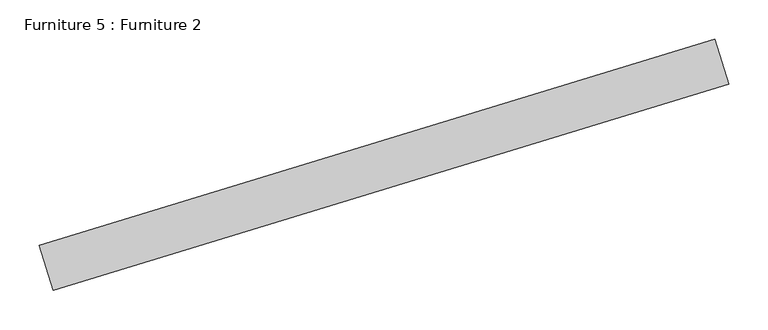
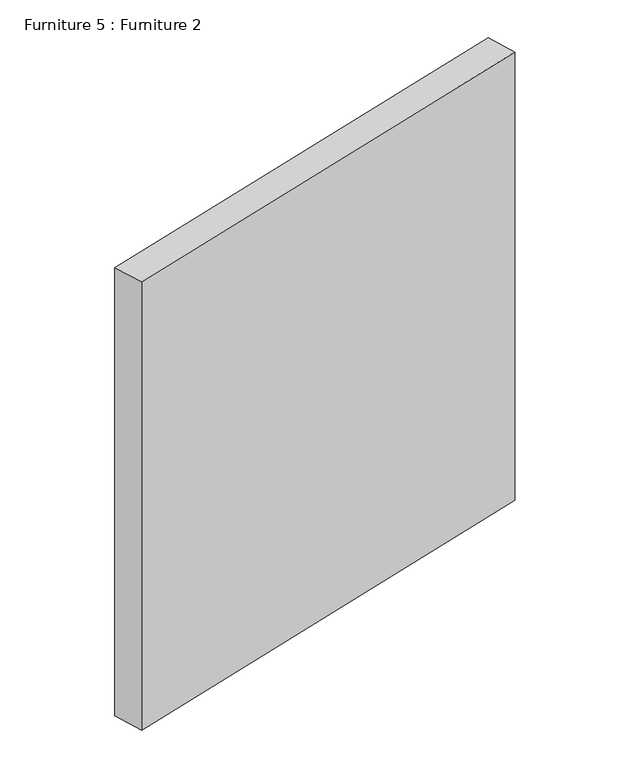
"""IFC4 building model written with IfcOpenShell, lengths in millimetres: furniture geometry, Furniture 5 : Furniture 2."""

from ifc_helpers import new_model, si_unit, frame, origin, place, context, project, spatial, polyline, outline, extrude, source, transform, mapped, element, save


def furniture_5_furniture_2_901133da(model_context):
    return source(origin(), model_context, "Body", "SweptSolid", [
        extrude(outline(polyline([(-9100.823028, 5495.4541115), (-9083.2807258, 5438.0758261), (-9943.9550061, 5174.9412919), (-9961.4973084, 5232.3195772), (-9100.823028, 5495.4541115)])), frame((0.0, 0.0, 2500.0), z_axis=(0.0, 0.0, 1.0), x_axis=(1.0, 0.0, 0.0)), (0.0, 0.0, 1.0), 900.0),
    ])


if __name__ == "__main__":
    model = new_model("IFC4")
    model_context = context("Model", 3, world=origin())
    ifc_project = project(units=[si_unit("LENGTHUNIT", "METRE", prefix="MILLI")], contexts=[model_context])
    site = spatial("IfcSite", under=ifc_project)
    building = spatial("IfcBuilding", under=site)
    placement = place(None, origin())
    furniture_5_furniture_2_shape = furniture_5_furniture_2_901133da(model_context)
    element("IfcFurniture", 1, ObjectType="Furniture 5 : Furniture 2", at=placement, inside=building, context=model_context, shape_type="MappedRepresentation", body=[
        mapped(furniture_5_furniture_2_shape, transform((0.0, 0.0, 0.0), x_axis=(1.0, 0.0, 0.0), y_axis=(0.0, 1.0, 0.0), z_axis=(0.0, 0.0, 1.0))),
    ])
    save(model, "model.ifc")
